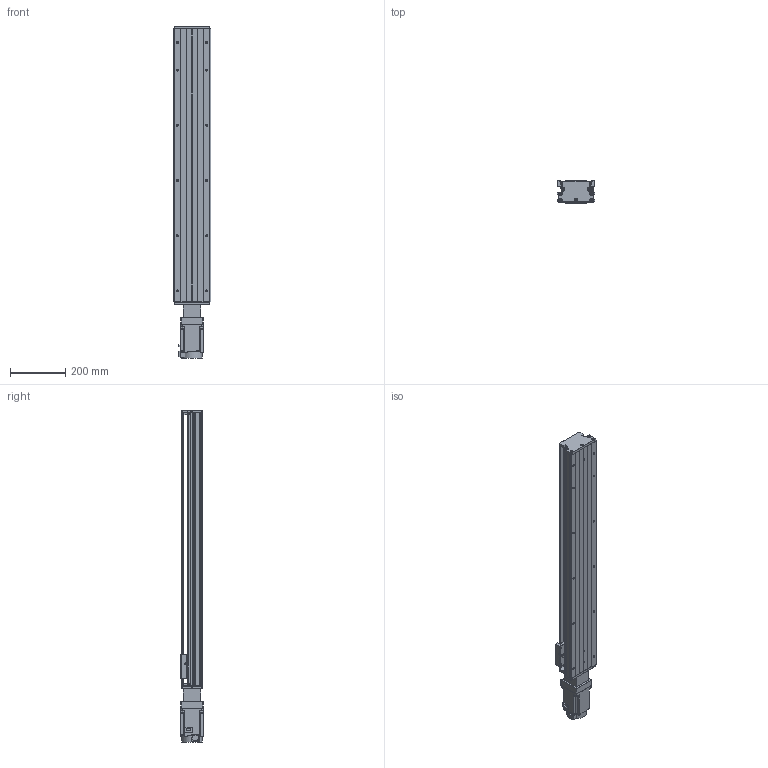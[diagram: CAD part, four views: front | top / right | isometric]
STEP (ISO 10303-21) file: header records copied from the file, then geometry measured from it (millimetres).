
FILE_DESCRIPTION (( 'STEP AP203' ), '1' );
FILE_NAME ('KTH130-850-BC-M75-C4.step', '2023-06-30T04:19:02', ( '微软用户' ), ( '微软中国' ), 'SwSTEP 2.0', 'SolidWorks 2020', '' );
FILE_SCHEMA (( 'CONFIG_CONTROL_DESIGN' ));
Length unit declared in the file: millimetre
Products named in the file (19): GBT 70.3-M3℅8; GTH14-001_850; CTHA60-017; CTHA86-006-1_M75; KTH130-002_KTH130-002; EE_SX911P_R; CTHA86-013; KTH130-004; CTHA60-016; CTHA86-027-1; KTH130-005; GBT 70.1-M3℅5; hg-kn73j_-s100; GB1155-6X6; GBT77-2000 M3×3; KTH130-850-BC-M75-C4; GBT70.1 M5℅16; す晦芛蹟隊 M3℅5; GBT 70.2-M3¡Á5_M3¡Á6
Assembly tree (52 placements, depth 2):
  KTH130-850-BC-M75-C4
    GTH14-001_850
    KTH130-002_KTH130-002
    KTH130-004
    KTH130-005
    GB1155-6X6  x2
    GBT70.1 M5℅16  x10
    GBT 70.2-M3¡Á5_M3¡Á6  x4
    CTHA60-017  x3
    EE_SX911P_R  x3
    CTHA60-016  x2
    GBT 70.1-M3℅5  x6
    GBT77-2000 M3×3  x6
    す晦芛蹟隊 M3℅5  x2
    GBT 70.3-M3℅8  x6
    CTHA86-006-1_M75
    CTHA86-013
    CTHA86-027-1
    hg-kn73j_-s100
Bounding box: 135 x 80.44 x 1203.2 mm (x, y, z)
Volume: 6438387.2 mm3; surface area: 940780.7 mm2
Topology: 55 solids, 55 shells, 2270 faces, 5456 edges, 3399 vertices
Faces by surface type: plane 1244, cylinder 630, cone 280, torus 104, sphere 12
Entity records: 40462 total; most frequent: CARTESIAN_POINT 6681, DIRECTION 6671, ORIENTED_EDGE 6196, EDGE_CURVE 3098, AXIS2_PLACEMENT_3D 2325, VECTOR 2021, LINE 2021, VERTEX_POINT 1971
